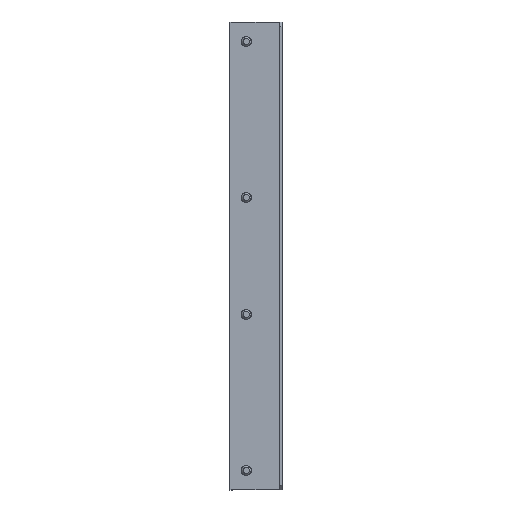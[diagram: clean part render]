
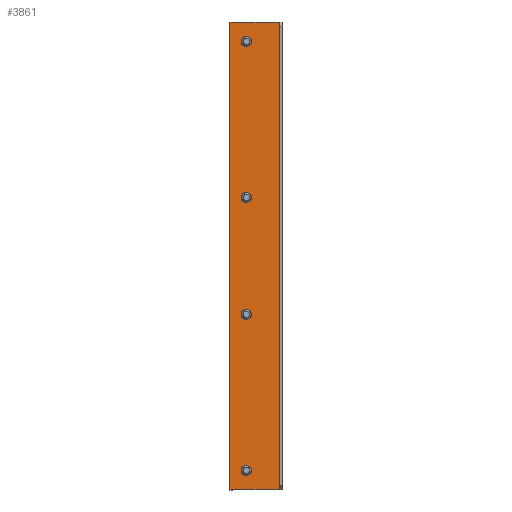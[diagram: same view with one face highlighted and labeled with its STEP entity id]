
A CAD part, top view. The second image highlights one B-rep face of the part: STEP entity #3861.
In plain terms, the highlighted planar face has unit normal (0, 0, 1).
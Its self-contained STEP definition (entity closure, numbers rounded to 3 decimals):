
#70 = ORIENTED_EDGE ( 'NONE', *, *, #2683, .T. ) ;
#84 = DIRECTION ( 'NONE',  ( 1., 0., 0. ) ) ;
#125 = ORIENTED_EDGE ( 'NONE', *, *, #2986, .T. ) ;
#170 = DIRECTION ( 'NONE',  ( 1., 0., 0. ) ) ;
#171 = CARTESIAN_POINT ( 'NONE',  ( 3.25, 137.5, 4.5 ) ) ;
#177 = DIRECTION ( 'NONE',  ( 0., -1., 0. ) ) ;
#211 = VERTEX_POINT ( 'NONE', #2752 ) ;
#245 = CARTESIAN_POINT ( 'NONE',  ( -3.25, 37.5, 4.5 ) ) ;
#254 = DIRECTION ( 'NONE',  ( 1., 0., 0. ) ) ;
#264 = CIRCLE ( 'NONE', #694, 3.25 ) ;
#322 = LINE ( 'NONE', #2722, #4404 ) ;
#343 = CARTESIAN_POINT ( 'NONE',  ( -8., -150., 4.5 ) ) ;
#354 = DIRECTION ( 'NONE',  ( -1., 0., 0. ) ) ;
#421 = CARTESIAN_POINT ( 'NONE',  ( 21.5, 150., 4.5 ) ) ;
#445 = VECTOR ( 'NONE', #2571, 1000. ) ;
#515 = CARTESIAN_POINT ( 'NONE',  ( -10.5, -150., 4.5 ) ) ;
#544 = EDGE_LOOP ( 'NONE', ( #2433, #1357, #1519, #716, #3037, #2550, #3957, #2745 ) ) ;
#547 = VERTEX_POINT ( 'NONE', #4300 ) ;
#605 = CARTESIAN_POINT ( 'NONE',  ( 3.25, -37.5, 4.5 ) ) ;
#640 = EDGE_CURVE ( 'NONE', #2072, #1477, #2467, .T. ) ;
#642 = DIRECTION ( 'NONE',  ( 0., 0., -1. ) ) ;
#643 = FACE_BOUND ( 'NONE', #2899, .T. ) ;
#676 = CARTESIAN_POINT ( 'NONE',  ( -8., 150., 4.5 ) ) ;
#694 = AXIS2_PLACEMENT_3D ( 'NONE', #3563, #1874, #2869 ) ;
#716 = ORIENTED_EDGE ( 'NONE', *, *, #1533, .F. ) ;
#769 = VECTOR ( 'NONE', #4052, 1000. ) ;
#778 = CIRCLE ( 'NONE', #3246, 3.25 ) ;
#813 = CARTESIAN_POINT ( 'NONE',  ( 20.5, -150., 4.5 ) ) ;
#832 = AXIS2_PLACEMENT_3D ( 'NONE', #3482, #2182, #4151 ) ;
#885 = DIRECTION ( 'NONE',  ( 1., 0., 0. ) ) ;
#887 = DIRECTION ( 'NONE',  ( 0., 0., -1. ) ) ;
#894 = DIRECTION ( 'NONE',  ( 0., 0., -1. ) ) ;
#929 = VECTOR ( 'NONE', #170, 1000. ) ;
#951 = DIRECTION ( 'NONE',  ( -1., 0., 0. ) ) ;
#969 = LINE ( 'NONE', #3927, #4340 ) ;
#1027 = CARTESIAN_POINT ( 'NONE',  ( 0., -137.5, 4.5 ) ) ;
#1045 = LINE ( 'NONE', #3383, #1799 ) ;
#1083 = ORIENTED_EDGE ( 'NONE', *, *, #2411, .T. ) ;
#1101 = DIRECTION ( 'NONE',  ( 0., 0., -1. ) ) ;
#1118 = CARTESIAN_POINT ( 'NONE',  ( 0., 150., 4.5 ) ) ;
#1190 = CARTESIAN_POINT ( 'NONE',  ( 3.25, -137.5, 4.5 ) ) ;
#1205 = CARTESIAN_POINT ( 'NONE',  ( 0., -37.5, 4.5 ) ) ;
#1246 = AXIS2_PLACEMENT_3D ( 'NONE', #1613, #894, #3956 ) ;
#1279 = FACE_BOUND ( 'NONE', #1486, .T. ) ;
#1357 = ORIENTED_EDGE ( 'NONE', *, *, #2465, .T. ) ;
#1379 = CARTESIAN_POINT ( 'NONE',  ( 3.25, 37.5, 4.5 ) ) ;
#1387 = CIRCLE ( 'NONE', #2504, 3.25 ) ;
#1444 = VERTEX_POINT ( 'NONE', #1476 ) ;
#1465 = LINE ( 'NONE', #813, #445 ) ;
#1477 = VERTEX_POINT ( 'NONE', #3345 ) ;
#1476 = CARTESIAN_POINT ( 'NONE',  ( 20.5, -150., 4.5 ) ) ;
#1486 = EDGE_LOOP ( 'NONE', ( #2528, #70 ) ) ;
#1519 = ORIENTED_EDGE ( 'NONE', *, *, #4108, .F. ) ;
#1518 = CARTESIAN_POINT ( 'NONE',  ( 0., -150., 4.5 ) ) ;
#1520 = CARTESIAN_POINT ( 'NONE',  ( 0., -37.5, 4.5 ) ) ;
#1533 = EDGE_CURVE ( 'NONE', #4375, #3404, #4395, .T. ) ;
#1556 = VERTEX_POINT ( 'NONE', #171 ) ;
#1566 = VERTEX_POINT ( 'NONE', #676 ) ;
#1586 = EDGE_LOOP ( 'NONE', ( #3089, #2345 ) ) ;
#1613 = CARTESIAN_POINT ( 'NONE',  ( 0., 37.5, 4.5 ) ) ;
#1647 = DIRECTION ( 'NONE',  ( 1., 0., 0. ) ) ;
#1787 = EDGE_CURVE ( 'NONE', #1444, #1477, #1465, .T. ) ;
#1799 = VECTOR ( 'NONE', #354, 1000. ) ;
#1874 = DIRECTION ( 'NONE',  ( 0., 0., -1. ) ) ;
#1884 = DIRECTION ( 'NONE',  ( 0., 0., -1. ) ) ;
#1981 = CARTESIAN_POINT ( 'NONE',  ( 0., 0., 4.5 ) ) ;
#2039 = AXIS2_PLACEMENT_3D ( 'NONE', #1027, #2423, #3698 ) ;
#2072 = VERTEX_POINT ( 'NONE', #421 ) ;
#2182 = DIRECTION ( 'NONE',  ( 0., 0., -1. ) ) ;
#2228 = VECTOR ( 'NONE', #177, 1000. ) ;
#2345 = ORIENTED_EDGE ( 'NONE', *, *, #3439, .T. ) ;
#2411 = EDGE_CURVE ( 'NONE', #3503, #3260, #2938, .T. ) ;
#2423 = DIRECTION ( 'NONE',  ( 0., 0., -1. ) ) ;
#2433 = ORIENTED_EDGE ( 'NONE', *, *, #3445, .F. ) ;
#2465 = EDGE_CURVE ( 'NONE', #1566, #211, #1045, .T. ) ;
#2467 = LINE ( 'NONE', #3558, #2228 ) ;
#2491 = CARTESIAN_POINT ( 'NONE',  ( -3.25, -37.5, 4.5 ) ) ;
#2504 = AXIS2_PLACEMENT_3D ( 'NONE', #1520, #1101, #84 ) ;
#2509 = CIRCLE ( 'NONE', #3301, 3.25 ) ;
#2516 = CARTESIAN_POINT ( 'NONE',  ( 21.5, 150., 4.5 ) ) ;
#2526 = CIRCLE ( 'NONE', #2039, 3.25 ) ;
#2528 = ORIENTED_EDGE ( 'NONE', *, *, #3145, .T. ) ;
#2548 = EDGE_LOOP ( 'NONE', ( #125, #4181 ) ) ;
#2550 = ORIENTED_EDGE ( 'NONE', *, *, #1787, .T. ) ;
#2555 = CARTESIAN_POINT ( 'NONE',  ( 0., 37.5, 4.5 ) ) ;
#2571 = DIRECTION ( 'NONE',  ( 1., 0., 0. ) ) ;
#2672 = ORIENTED_EDGE ( 'NONE', *, *, #4284, .T. ) ;
#2683 = EDGE_CURVE ( 'NONE', #3384, #3471, #1387, .T. ) ;
#2703 = EDGE_CURVE ( 'NONE', #4129, #1556, #3791, .T. ) ;
#2722 = CARTESIAN_POINT ( 'NONE',  ( -10.5, 0., 4.5 ) ) ;
#2745 = ORIENTED_EDGE ( 'NONE', *, *, #4137, .F. ) ;
#2752 = CARTESIAN_POINT ( 'NONE',  ( -10.5, 150., 4.5 ) ) ;
#2869 = DIRECTION ( 'NONE',  ( 1., 0., 0. ) ) ;
#2899 = EDGE_LOOP ( 'NONE', ( #2672, #1083 ) ) ;
#2910 = FACE_BOUND ( 'NONE', #1586, .T. ) ;
#2938 = CIRCLE ( 'NONE', #1246, 3.25 ) ;
#2986 = EDGE_CURVE ( 'NONE', #1556, #4129, #2509, .T. ) ;
#3037 = ORIENTED_EDGE ( 'NONE', *, *, #4319, .F. ) ;
#3089 = ORIENTED_EDGE ( 'NONE', *, *, #3692, .T. ) ;
#3145 = EDGE_CURVE ( 'NONE', #3471, #3384, #3229, .T. ) ;
#3156 = AXIS2_PLACEMENT_3D ( 'NONE', #1205, #1884, #885 ) ;
#3209 = DIRECTION ( 'NONE',  ( 1., 0., 0. ) ) ;
#3229 = CIRCLE ( 'NONE', #3156, 3.25 ) ;
#3233 = LINE ( 'NONE', #2516, #3795 ) ;
#3246 = AXIS2_PLACEMENT_3D ( 'NONE', #2555, #887, #254 ) ;
#3260 = VERTEX_POINT ( 'NONE', #1379 ) ;
#3301 = AXIS2_PLACEMENT_3D ( 'NONE', #3674, #642, #1647 ) ;
#3312 = AXIS2_PLACEMENT_3D ( 'NONE', #1981, #4361, #3603 ) ;
#3314 = FACE_OUTER_BOUND ( 'NONE', #544, .T. ) ;
#3345 = CARTESIAN_POINT ( 'NONE',  ( 21.5, -150., 4.5 ) ) ;
#3383 = CARTESIAN_POINT ( 'NONE',  ( -8., 150., 4.5 ) ) ;
#3384 = VERTEX_POINT ( 'NONE', #2491 ) ;
#3404 = VERTEX_POINT ( 'NONE', #515 ) ;
#3439 = EDGE_CURVE ( 'NONE', #4140, #3800, #264, .T. ) ;
#3445 = EDGE_CURVE ( 'NONE', #1566, #547, #3233, .T. ) ;
#3460 = CARTESIAN_POINT ( 'NONE',  ( -3.25, -137.5, 4.5 ) ) ;
#3471 = VERTEX_POINT ( 'NONE', #605 ) ;
#3479 = LINE ( 'NONE', #1118, #929 ) ;
#3482 = CARTESIAN_POINT ( 'NONE',  ( 0., 137.5, 4.5 ) ) ;
#3503 = VERTEX_POINT ( 'NONE', #245 ) ;
#3558 = CARTESIAN_POINT ( 'NONE',  ( 21.5, 0., 4.5 ) ) ;
#3563 = CARTESIAN_POINT ( 'NONE',  ( 0., -137.5, 4.5 ) ) ;
#3603 = DIRECTION ( 'NONE',  ( 1., 0., 0. ) ) ;
#3644 = FACE_BOUND ( 'NONE', #2548, .T. ) ;
#3674 = CARTESIAN_POINT ( 'NONE',  ( 0., 137.5, 4.5 ) ) ;
#3692 = EDGE_CURVE ( 'NONE', #3800, #4140, #2526, .T. ) ;
#3698 = DIRECTION ( 'NONE',  ( 1., 0., 0. ) ) ;
#3791 = CIRCLE ( 'NONE', #832, 3.25 ) ;
#3795 = VECTOR ( 'NONE', #3209, 1000. ) ;
#3800 = VERTEX_POINT ( 'NONE', #1190 ) ;
#3824 = CARTESIAN_POINT ( 'NONE',  ( -3.25, 137.5, 4.5 ) ) ;
#3861 = ADVANCED_FACE ( 'NONE', ( #3644, #1279, #2910, #643, #3314 ), #4273, .T. ) ;
#3927 = CARTESIAN_POINT ( 'NONE',  ( -10.5, -150., 4.5 ) ) ;
#3956 = DIRECTION ( 'NONE',  ( 1., 0., 0. ) ) ;
#3957 = ORIENTED_EDGE ( 'NONE', *, *, #640, .F. ) ;
#4052 = DIRECTION ( 'NONE',  ( -1., 0., 0. ) ) ;
#4107 = DIRECTION ( 'NONE',  ( 0., 1., 0. ) ) ;
#4108 = EDGE_CURVE ( 'NONE', #3404, #211, #322, .T. ) ;
#4129 = VERTEX_POINT ( 'NONE', #3824 ) ;
#4137 = EDGE_CURVE ( 'NONE', #547, #2072, #3479, .T. ) ;
#4140 = VERTEX_POINT ( 'NONE', #3460 ) ;
#4151 = DIRECTION ( 'NONE',  ( 1., 0., 0. ) ) ;
#4181 = ORIENTED_EDGE ( 'NONE', *, *, #2703, .T. ) ;
#4273 = PLANE ( 'NONE',  #3312 ) ;
#4284 = EDGE_CURVE ( 'NONE', #3260, #3503, #778, .T. ) ;
#4300 = CARTESIAN_POINT ( 'NONE',  ( 20.5, 150., 4.5 ) ) ;
#4319 = EDGE_CURVE ( 'NONE', #1444, #4375, #969, .T. ) ;
#4340 = VECTOR ( 'NONE', #951, 1000. ) ;
#4361 = DIRECTION ( 'NONE',  ( 0., 0., 1. ) ) ;
#4375 = VERTEX_POINT ( 'NONE', #343 ) ;
#4395 = LINE ( 'NONE', #1518, #769 ) ;
#4404 = VECTOR ( 'NONE', #4107, 1000. ) ;
